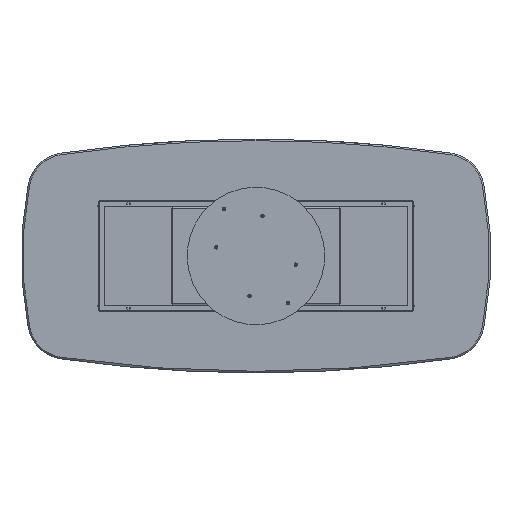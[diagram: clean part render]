
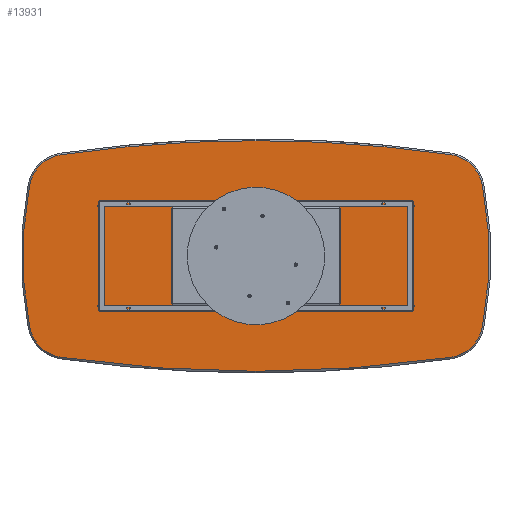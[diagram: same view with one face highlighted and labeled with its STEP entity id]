
A CAD part, front view. The second image highlights one B-rep face of the part: STEP entity #13931.
In plain terms, the highlighted planar face has unit normal (0, -1, 0).
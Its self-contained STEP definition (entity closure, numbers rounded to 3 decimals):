
#513 = DIRECTION ( 'NONE',  ( 0., -1., 0. ) ) ;
#761 = DIRECTION ( 'NONE',  ( 0., 0., 1. ) ) ;
#868 = EDGE_CURVE ( 'NONE', #19531, #12220, #3720, .T. ) ;
#1288 = DIRECTION ( 'NONE',  ( 0., -1., 0. ) ) ;
#1575 = AXIS2_PLACEMENT_3D ( 'NONE', #10571, #17259, #18897 ) ;
#2127 = CARTESIAN_POINT ( 'NONE',  ( 0., 0., -6355. ) ) ;
#2468 = ORIENTED_EDGE ( 'NONE', *, *, #21127, .T. ) ;
#2492 = DIRECTION ( 'NONE',  ( 0., -1., 0. ) ) ;
#2889 = AXIS2_PLACEMENT_3D ( 'NONE', #20049, #8147, #16573 ) ;
#3255 = EDGE_LOOP ( 'NONE', ( #10296, #16478, #2468, #4750, #5493, #21256, #17482, #11538, #12970 ) ) ;
#3530 = VERTEX_POINT ( 'NONE', #9424 ) ;
#3720 = CIRCLE ( 'NONE', #7517, 6942. ) ;
#4296 = CIRCLE ( 'NONE', #15349, 1892. ) ;
#4356 = DIRECTION ( 'NONE',  ( 0., -1., 0. ) ) ;
#4452 = DIRECTION ( 'NONE',  ( 0., 0., 1. ) ) ;
#4750 = ORIENTED_EDGE ( 'NONE', *, *, #16123, .T. ) ;
#4994 = CARTESIAN_POINT ( 'NONE',  ( 963.472, 0., 325.885 ) ) ;
#5059 = CARTESIAN_POINT ( 'NONE',  ( 1151.911, 0., 362.691 ) ) ;
#5493 = ORIENTED_EDGE ( 'NONE', *, *, #13632, .T. ) ;
#6136 = EDGE_CURVE ( 'NONE', #3530, #9913, #16381, .T. ) ;
#7381 = AXIS2_PLACEMENT_3D ( 'NONE', #4994, #13336, #11823 ) ;
#7517 = AXIS2_PLACEMENT_3D ( 'NONE', #2127, #513, #12121 ) ;
#8147 = DIRECTION ( 'NONE',  ( 0., -1., 0. ) ) ;
#8297 = CARTESIAN_POINT ( 'NONE',  ( 1151.911, 0., -362.691 ) ) ;
#9369 = VERTEX_POINT ( 'NONE', #20376 ) ;
#9424 = CARTESIAN_POINT ( 'NONE',  ( -1151.911, 0., -362.691 ) ) ;
#9806 = CIRCLE ( 'NONE', #14975, 6942. ) ;
#9872 = DIRECTION ( 'NONE',  ( 0., -1., 0. ) ) ;
#9913 = VERTEX_POINT ( 'NONE', #18222 ) ;
#10296 = ORIENTED_EDGE ( 'NONE', *, *, #6136, .T. ) ;
#10571 = CARTESIAN_POINT ( 'NONE',  ( -963.472, 0., 325.885 ) ) ;
#11180 = DIRECTION ( 'NONE',  ( 0., 0., 1. ) ) ;
#11538 = ORIENTED_EDGE ( 'NONE', *, *, #18605, .T. ) ;
#11631 = CIRCLE ( 'NONE', #1575, 192. ) ;
#11640 = VERTEX_POINT ( 'NONE', #8297 ) ;
#11823 = DIRECTION ( 'NONE',  ( 0., 0., 1. ) ) ;
#11892 = CIRCLE ( 'NONE', #20179, 1892. ) ;
#12052 = PLANE ( 'NONE',  #16344 ) ;
#12121 = DIRECTION ( 'NONE',  ( 0., 0., 1. ) ) ;
#12220 = VERTEX_POINT ( 'NONE', #13573 ) ;
#12362 = CIRCLE ( 'NONE', #20305, 192. ) ;
#12601 = CARTESIAN_POINT ( 'NONE',  ( 963.472, 0., -325.885 ) ) ;
#12970 = ORIENTED_EDGE ( 'NONE', *, *, #15996, .T. ) ;
#13336 = DIRECTION ( 'NONE',  ( 0., -1., 0. ) ) ;
#13347 = CARTESIAN_POINT ( 'NONE',  ( 0., 0., 6355. ) ) ;
#13452 = DIRECTION ( 'NONE',  ( 0., -1., 0. ) ) ;
#13573 = CARTESIAN_POINT ( 'NONE',  ( 0., 0., 587. ) ) ;
#13632 = EDGE_CURVE ( 'NONE', #16720, #19531, #21190, .T. ) ;
#13931 = ADVANCED_FACE ( 'NONE', ( #20377 ), #12052, .F. ) ;
#14429 = CARTESIAN_POINT ( 'NONE',  ( 990.878, 0., -515.919 ) ) ;
#14799 = VERTEX_POINT ( 'NONE', #19298 ) ;
#14850 = DIRECTION ( 'NONE',  ( 0., 0., 1. ) ) ;
#14975 = AXIS2_PLACEMENT_3D ( 'NONE', #19621, #9872, #16467 ) ;
#15349 = AXIS2_PLACEMENT_3D ( 'NONE', #16239, #1288, #19692 ) ;
#15579 = VERTEX_POINT ( 'NONE', #14429 ) ;
#15767 = EDGE_CURVE ( 'NONE', #12220, #14799, #9806, .T. ) ;
#15996 = EDGE_CURVE ( 'NONE', #9369, #3530, #11892, .T. ) ;
#16123 = EDGE_CURVE ( 'NONE', #11640, #16720, #4296, .T. ) ;
#16239 = CARTESIAN_POINT ( 'NONE',  ( -705., 0., 0. ) ) ;
#16344 = AXIS2_PLACEMENT_3D ( 'NONE', #20482, #17328, #761 ) ;
#16381 = CIRCLE ( 'NONE', #2889, 192. ) ;
#16467 = DIRECTION ( 'NONE',  ( 0., 0., 1. ) ) ;
#16478 = ORIENTED_EDGE ( 'NONE', *, *, #16924, .T. ) ;
#16573 = DIRECTION ( 'NONE',  ( 0., 0., 1. ) ) ;
#16720 = VERTEX_POINT ( 'NONE', #5059 ) ;
#16924 = EDGE_CURVE ( 'NONE', #9913, #15579, #18488, .T. ) ;
#17259 = DIRECTION ( 'NONE',  ( 0., -1., 0. ) ) ;
#17328 = DIRECTION ( 'NONE',  ( 0., 1., 0. ) ) ;
#17482 = ORIENTED_EDGE ( 'NONE', *, *, #15767, .T. ) ;
#18222 = CARTESIAN_POINT ( 'NONE',  ( -990.878, 0., -515.919 ) ) ;
#18488 = CIRCLE ( 'NONE', #19848, 6942. ) ;
#18605 = EDGE_CURVE ( 'NONE', #14799, #9369, #11631, .T. ) ;
#18897 = DIRECTION ( 'NONE',  ( 0., 0., 1. ) ) ;
#19069 = CARTESIAN_POINT ( 'NONE',  ( 990.878, 0., 515.919 ) ) ;
#19298 = CARTESIAN_POINT ( 'NONE',  ( -990.878, 0., 515.919 ) ) ;
#19301 = CARTESIAN_POINT ( 'NONE',  ( 705., 0., 0. ) ) ;
#19531 = VERTEX_POINT ( 'NONE', #19069 ) ;
#19621 = CARTESIAN_POINT ( 'NONE',  ( 0., 0., -6355. ) ) ;
#19692 = DIRECTION ( 'NONE',  ( 0., 0., 1. ) ) ;
#19848 = AXIS2_PLACEMENT_3D ( 'NONE', #13347, #13452, #14850 ) ;
#20049 = CARTESIAN_POINT ( 'NONE',  ( -963.472, 0., -325.885 ) ) ;
#20179 = AXIS2_PLACEMENT_3D ( 'NONE', #19301, #2492, #4452 ) ;
#20305 = AXIS2_PLACEMENT_3D ( 'NONE', #12601, #4356, #11180 ) ;
#20376 = CARTESIAN_POINT ( 'NONE',  ( -1151.911, 0., 362.691 ) ) ;
#20377 = FACE_OUTER_BOUND ( 'NONE', #3255, .T. ) ;
#20482 = CARTESIAN_POINT ( 'NONE',  ( -352.5, 0., 3177.5 ) ) ;
#21127 = EDGE_CURVE ( 'NONE', #15579, #11640, #12362, .T. ) ;
#21190 = CIRCLE ( 'NONE', #7381, 192. ) ;
#21256 = ORIENTED_EDGE ( 'NONE', *, *, #868, .T. ) ;
